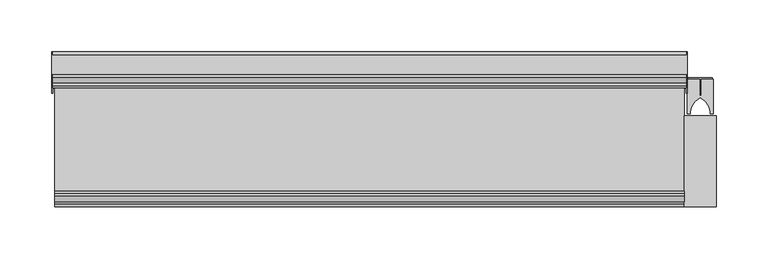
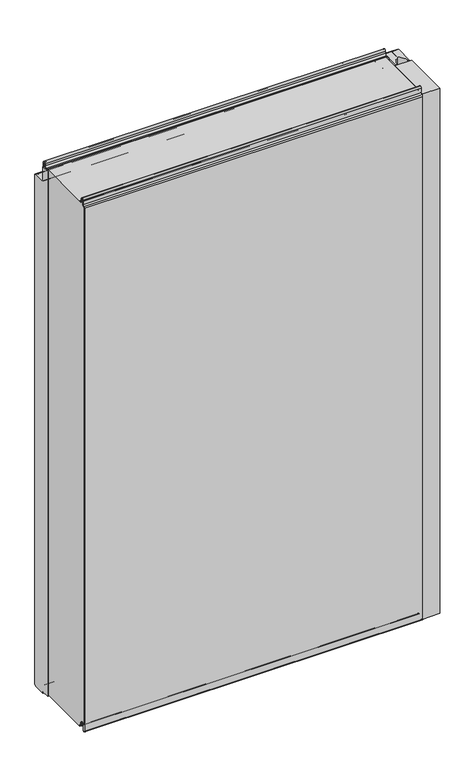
"""IFC4 building model written with IfcOpenShell, lengths in millimetres: plate geometry, Fronttop : Fronttop 150/1000."""

from ifc_helpers import new_model, si_unit, point, frame, frame_2d, origin, origin_with_axes, place, context, project, spatial, polyline, circle_curve, trimmed, segment, composite_curve, outline, extrude, source, transform, mapped, element, save
from ifc_brep_helpers import plane_surface, cylinder_surface, revolved_surface, advanced_brep


def plate_da5bb01e(model_context):
    return source(origin(), model_context, "Body", "SolidModel", [
        advanced_brep(
        [(-306.5, 124.0, 1008.0), (-306.5, 121.0, 1008.0), (-306.5, 121.0, 1004.0), (-306.5, 117.0, 1000.0), (-306.5, 115.0, 1000.0), (-306.5, 115.0, 1001.0), (-306.5, 117.0, 1001.0), (-306.5, 120.0, 1004.0), (-306.5, 120.0, 1008.0), (-306.5, 125.0, 1008.0), (-306.5, 125.0, 1000.0), (-306.5, 124.0, 1000.0), (306.5, 125.0, 1008.0), (306.5, 120.0, 1008.0), (306.5, 120.0, 1004.0), (306.5, 117.0, 1001.0), (306.5, 115.0, 1001.0), (306.5, 115.0, 1000.0), (306.5, 117.0, 1000.0), (306.5, 121.0, 1004.0), (306.5, 121.0, 1008.0), (306.5, 124.0, 1008.0), (306.5, 124.0, 1000.0), (306.5, 125.0, 1000.0), (-306.5, 117.0, 2.0), (306.5, 117.0, 2.0), (306.5, 115.0, 2.0), (-306.5, 115.0, 2.0), (-306.5, 119.0, 4.0), (306.5, 119.0, 4.0), (-306.5, 119.0, 8.0), (306.5, 119.0, 8.0), (-306.5, 126.0, 8.0), (306.5, 126.0, 8.0), (-306.5, 126.0, 0.0), (306.5, 126.0, 0.0), (-306.5, 129.0, -3.0), (306.5, 129.0, -3.0), (-306.5, 125.0, -3.0), (-307.5, 125.0, -3.0), (-307.5, 147.0, -3.0), (-306.5, 147.0, -3.0), (306.5, 147.0, -3.0), (307.5, 147.0, -3.0), (307.5, 125.0, -3.0), (306.5, 125.0, -3.0), (-306.5, 150.0, 0.0), (306.5, 150.0, 0.0), (-307.5, 150.0, 0.0), (-307.5, 150.0, 969.0), (-306.5, 150.0, 969.0), (306.5, 150.0, 969.0), (307.5, 150.0, 969.0), (307.5, 150.0, 0.0), (-306.5, 147.0, 972.0), (306.5, 147.0, 972.0), (-307.5, 147.0, 972.0), (-307.5, 128.0, 972.0), (-306.5, 128.0, 972.0), (306.5, 128.0, 972.0), (307.5, 128.0, 972.0), (307.5, 147.0, 972.0), (-306.5, 125.0, 975.0), (306.5, 125.0, 975.0), (-307.5, 125.0, 975.0), (-307.5, 125.0, 1000.0), (307.5, 125.0, 1000.0), (307.5, 125.0, 975.0), (-306.5, 124.0, 975.0), (306.5, 124.0, 975.0), (-306.5, 128.0, 971.0), (306.5, 128.0, 971.0), (-306.5, 147.0, 971.0), (306.5, 147.0, 971.0), (-306.5, 149.0, 969.0), (306.5, 149.0, 969.0), (-306.5, 149.0, 0.0), (306.5, 149.0, 0.0), (-306.5, 147.0, -2.0), (306.5, 147.0, -2.0), (-306.5, 129.0, -2.0), (306.5, 129.0, -2.0), (-306.5, 127.0, 0.0), (306.5, 127.0, 0.0), (-306.5, 127.0, 8.0), (306.5, 127.0, 8.0), (-306.5, 118.0, 8.0), (306.5, 118.0, 8.0), (-306.5, 118.0, 4.0), (306.5, 118.0, 4.0), (-306.5, 117.0, 3.0), (306.5, 117.0, 3.0), (-306.5, 115.0, 3.0), (306.5, 115.0, 3.0), (307.5, 110.0, 1000.0), (307.5, 110.0, 0.0), (307.5, 125.0, 0.0), (306.5, 125.0, 0.0), (306.5, 110.0, 0.0), (306.5, 110.0, 1000.0), (-307.5, 125.0, 0.0), (-307.5, 110.0, 0.0), (-307.5, 110.0, 1000.0), (-306.5, 110.0, 1000.0), (-306.5, 110.0, 0.0), (-306.5, 125.0, 0.0)],
        [
            (0, 1, circle_curve(frame((-306.5, 122.5, 1008.0), z_axis=(1.0, 0.0, 0.0), x_axis=(0.0, -1.0, 0.0)), 1.5)),
            (1, 2),
            (2, 3, circle_curve(frame((-306.5, 117.0, 1004.0), z_axis=(-1.0, 0.0, 0.0), x_axis=(0.0, -1.0, 0.0)), 4.0)),
            (3, 4),
            (4, 5),
            (5, 6),
            (6, 7, circle_curve(frame((-306.5, 117.0, 1004.0), z_axis=(1.0, 0.0, 0.0), x_axis=(0.0, -1.0, 0.0)), 3.0)),
            (7, 8),
            (8, 9, circle_curve(frame((-306.5, 122.5, 1008.0), z_axis=(-1.0, 0.0, 0.0), x_axis=(0.0, -1.0, 0.0)), 2.5)),
            (9, 10),
            (10, 11),
            (11, 0),
            (12, 13, circle_curve(frame((306.5, 122.5, 1008.0), z_axis=(1.0, 0.0, 0.0), x_axis=(0.0, -1.0, 0.0)), 2.5)),
            (13, 14),
            (14, 15, circle_curve(frame((306.5, 117.0, 1004.0), z_axis=(-1.0, 0.0, 0.0), x_axis=(0.0, -1.0, 0.0)), 3.0)),
            (15, 16),
            (16, 17),
            (17, 18),
            (18, 19, circle_curve(frame((306.5, 117.0, 1004.0), z_axis=(1.0, 0.0, 0.0), x_axis=(0.0, -1.0, 0.0)), 4.0)),
            (19, 20),
            (20, 21, circle_curve(frame((306.5, 122.5, 1008.0), z_axis=(-1.0, 0.0, 0.0), x_axis=(0.0, -1.0, 0.0)), 1.5)),
            (21, 22),
            (22, 23),
            (23, 12),
            (24, 25),
            (25, 26),
            (26, 27),
            (27, 24),
            (24, 28, circle_curve(frame((-306.5, 117.0, 4.0), z_axis=(1.0, 0.0, 0.0), x_axis=(0.0, -1.0, 0.0)), 2.0)),
            (28, 29),
            (29, 25, circle_curve(frame((306.5, 117.0, 4.0), z_axis=(-1.0, 0.0, 0.0), x_axis=(0.0, -1.0, 0.0)), 2.0)),
            (28, 30),
            (30, 31),
            (31, 29),
            (30, 32, circle_curve(frame((-306.5, 122.5, 8.0), z_axis=(-1.0, 0.0, 0.0), x_axis=(0.0, -1.0, 0.0)), 3.5)),
            (32, 33),
            (33, 31, circle_curve(frame((306.5, 122.5, 8.0), z_axis=(1.0, 0.0, 0.0), x_axis=(0.0, -1.0, 0.0)), 3.5)),
            (32, 34),
            (34, 35),
            (35, 33),
            (34, 36, circle_curve(frame((-306.5, 129.0, 0.0), z_axis=(1.0, 0.0, 0.0), x_axis=(0.0, -1.0, 0.0)), 3.0)),
            (36, 37),
            (37, 35, circle_curve(frame((306.5, 129.0, 0.0), z_axis=(-1.0, 0.0, 0.0), x_axis=(0.0, -1.0, 0.0)), 3.0)),
            (36, 38),
            (38, 39),
            (39, 40),
            (40, 41),
            (41, 42),
            (42, 43),
            (43, 44),
            (44, 45),
            (45, 37),
            (41, 46, circle_curve(frame((-306.5, 147.0, 0.0), z_axis=(1.0, 0.0, 0.0), x_axis=(0.0, -1.0, 0.0)), 3.0)),
            (46, 47),
            (47, 42, circle_curve(frame((306.5, 147.0, 0.0), z_axis=(-1.0, 0.0, 0.0), x_axis=(0.0, -1.0, 0.0)), 3.0)),
            (46, 48),
            (48, 49),
            (49, 50),
            (50, 51),
            (51, 52),
            (52, 53),
            (53, 47),
            (50, 54, circle_curve(frame((-306.5, 147.0, 969.0), z_axis=(1.0, 0.0, 0.0), x_axis=(0.0, -1.0, 0.0)), 3.0)),
            (54, 55),
            (55, 51, circle_curve(frame((306.5, 147.0, 969.0), z_axis=(-1.0, 0.0, 0.0), x_axis=(0.0, -1.0, 0.0)), 3.0)),
            (54, 56),
            (56, 57),
            (57, 58),
            (58, 59),
            (59, 60),
            (60, 61),
            (61, 55),
            (58, 62, circle_curve(frame((-306.5, 128.0, 975.0), z_axis=(-1.0, 0.0, 0.0), x_axis=(0.0, -1.0, 0.0)), 3.0)),
            (62, 63),
            (63, 59, circle_curve(frame((306.5, 128.0, 975.0), z_axis=(1.0, 0.0, 0.0), x_axis=(0.0, -1.0, 0.0)), 3.0)),
            (62, 64),
            (64, 65),
            (65, 10),
            (9, 12),
            (23, 66),
            (66, 67),
            (67, 63),
            (8, 13),
            (7, 14),
            (6, 15),
            (5, 16),
            (4, 17),
            (4, 3),
            (3, 18),
            (18, 17),
            (2, 19),
            (1, 20),
            (0, 21),
            (11, 68),
            (68, 69),
            (69, 22),
            (68, 70, circle_curve(frame((-306.5, 128.0, 975.0), z_axis=(1.0, 0.0, 0.0), x_axis=(0.0, -1.0, 0.0)), 4.0)),
            (70, 71),
            (71, 69, circle_curve(frame((306.5, 128.0, 975.0), z_axis=(-1.0, 0.0, 0.0), x_axis=(0.0, -1.0, 0.0)), 4.0)),
            (70, 72),
            (72, 73),
            (73, 71),
            (72, 74, circle_curve(frame((-306.5, 147.0, 969.0), z_axis=(-1.0, 0.0, 0.0), x_axis=(0.0, -1.0, 0.0)), 2.0)),
            (74, 75),
            (75, 73, circle_curve(frame((306.5, 147.0, 969.0), z_axis=(1.0, 0.0, 0.0), x_axis=(0.0, -1.0, 0.0)), 2.0)),
            (74, 76),
            (76, 77),
            (77, 75),
            (76, 78, circle_curve(frame((-306.5, 147.0, 0.0), z_axis=(-1.0, 0.0, 0.0), x_axis=(0.0, -1.0, 0.0)), 2.0)),
            (78, 79),
            (79, 77, circle_curve(frame((306.5, 147.0, 0.0), z_axis=(1.0, 0.0, 0.0), x_axis=(0.0, -1.0, 0.0)), 2.0)),
            (78, 80),
            (80, 81),
            (81, 79),
            (80, 82, circle_curve(frame((-306.5, 129.0, 0.0), z_axis=(-1.0, 0.0, 0.0), x_axis=(0.0, -1.0, 0.0)), 2.0)),
            (82, 83),
            (83, 81, circle_curve(frame((306.5, 129.0, 0.0), z_axis=(1.0, 0.0, 0.0), x_axis=(0.0, -1.0, 0.0)), 2.0)),
            (82, 84),
            (84, 85),
            (85, 83),
            (84, 86, circle_curve(frame((-306.5, 122.5, 8.0), z_axis=(1.0, 0.0, 0.0), x_axis=(0.0, -1.0, 0.0)), 4.5)),
            (86, 87),
            (87, 85, circle_curve(frame((306.5, 122.5, 8.0), z_axis=(-1.0, 0.0, 0.0), x_axis=(0.0, -1.0, 0.0)), 4.5)),
            (86, 88),
            (88, 89),
            (89, 87),
            (88, 90, circle_curve(frame((-306.5, 117.0, 4.0), z_axis=(-1.0, 0.0, 0.0), x_axis=(0.0, -1.0, 0.0)), 1.0)),
            (90, 91),
            (91, 89, circle_curve(frame((306.5, 117.0, 4.0), z_axis=(1.0, 0.0, 0.0), x_axis=(0.0, -1.0, 0.0)), 1.0)),
            (90, 92),
            (92, 93),
            (93, 91),
            (26, 93),
            (92, 27),
            (66, 94),
            (94, 95),
            (95, 96),
            (96, 44),
            (43, 53, circle_curve(frame((307.5, 147.0, 0.0), z_axis=(1.0, 0.0, 0.0), x_axis=(0.0, 1.0, 0.0)), 3.0)),
            (52, 61, circle_curve(frame((307.5, 147.0, 969.0), z_axis=(1.0, 0.0, 0.0), x_axis=(0.0, 1.0, 0.0)), 3.0)),
            (60, 67, circle_curve(frame((307.5, 128.0, 975.0), z_axis=(-1.0, 0.0, 0.0), x_axis=(0.0, 1.0, 0.0)), 3.0)),
            (45, 97),
            (97, 98),
            (98, 99),
            (99, 17),
            (18, 22),
            (99, 94),
            (98, 95),
            (97, 96),
            (64, 57, circle_curve(frame((-307.5, 128.0, 975.0), z_axis=(1.0, 0.0, 0.0), x_axis=(0.0, 1.0, 0.0)), 3.0)),
            (56, 49, circle_curve(frame((-307.5, 147.0, 969.0), z_axis=(-1.0, 0.0, 0.0), x_axis=(0.0, 1.0, 0.0)), 3.0)),
            (48, 40, circle_curve(frame((-307.5, 147.0, 0.0), z_axis=(-1.0, 0.0, 0.0), x_axis=(0.0, 1.0, 0.0)), 3.0)),
            (39, 100),
            (100, 101),
            (101, 102),
            (102, 65),
            (103, 104),
            (104, 105),
            (105, 38),
            (11, 3),
            (4, 103),
            (102, 103),
            (101, 104),
            (100, 105),
        ],
        [
            plane_surface(frame((-306.5, 0.0, 0.0), z_axis=(-1.0, 0.0, 0.0), x_axis=(0.0, 0.0, 1.0))),
            plane_surface(frame((306.5, 0.0, 0.0), z_axis=(1.0, 0.0, 0.0), x_axis=(0.0, 0.0, 1.0))),
            plane_surface(frame((-306.5, 117.0, 2.0), z_axis=(0.0, 0.0, -1.0), x_axis=(1.0, 0.0, 0.0))),
            cylinder_surface(frame((-306.5, 117.0, 4.0), z_axis=(-1.0, 0.0, 0.0), x_axis=(0.0, -1.0, 0.0)), 2.0),
            plane_surface(frame((-306.5, 119.0, 8.0), z_axis=(0.0, 1.0, 0.0), x_axis=(1.0, 0.0, 0.0))),
            revolved_surface(polyline([(306.5, 119.0, 8.0), (-306.5, 119.0, 8.0)]), (-306.5, 122.5, 8.0), (1.0, 0.0, 0.0)),
            plane_surface(frame((-306.5, 126.0, 0.0), z_axis=(0.0, -1.0, 0.0), x_axis=(1.0, 0.0, 0.0))),
            cylinder_surface(frame((-306.5, 129.0, 0.0), z_axis=(-1.0, 0.0, 0.0), x_axis=(0.0, -1.0, 0.0)), 3.0),
            plane_surface(frame((-306.5, 147.0, -3.0), z_axis=(0.0, 0.0, -1.0), x_axis=(1.0, 0.0, 0.0))),
            cylinder_surface(frame((-306.5, 147.0, 0.0), z_axis=(-1.0, 0.0, 0.0), x_axis=(0.0, -1.0, 0.0)), 3.0),
            plane_surface(frame((-306.5, 150.0, 969.0), z_axis=(0.0, 1.0, 0.0), x_axis=(1.0, 0.0, 0.0))),
            cylinder_surface(frame((-306.5, 147.0, 969.0), z_axis=(-1.0, 0.0, 0.0), x_axis=(0.0, -1.0, 0.0)), 3.0),
            plane_surface(frame((-306.5, 128.0, 972.0), z_axis=(0.0, 0.0, 1.0), x_axis=(1.0, 0.0, 0.0))),
            revolved_surface(polyline([(306.5, 125.0, 975.0), (-306.5, 125.0, 975.0)]), (-306.5, 128.0, 975.0), (1.0, 0.0, 0.0)),
            plane_surface(frame((-306.5, 125.0, 1008.0), z_axis=(0.0, 1.0, 0.0), x_axis=(1.0, 0.0, 0.0))),
            cylinder_surface(frame((-306.5, 122.5, 1008.0), z_axis=(-1.0, 0.0, 0.0), x_axis=(0.0, -1.0, 0.0)), 2.5),
            plane_surface(frame((-306.5, 120.0, 1004.0), z_axis=(0.0, -1.0, 0.0), x_axis=(1.0, 0.0, 0.0))),
            revolved_surface(polyline([(306.5, 114.0, 1004.0), (-306.5, 114.0, 1004.0)]), (-306.5, 117.0, 1004.0), (1.0, 0.0, 0.0)),
            plane_surface(frame((-306.5, 115.0, 1001.0), z_axis=(0.0, 0.0, 1.0), x_axis=(1.0, 0.0, 0.0))),
            plane_surface(frame((-306.5, 115.0, 1000.0), z_axis=(0.0, -1.0, 0.0), x_axis=(1.0, 0.0, 0.0))),
            plane_surface(frame((-306.5, 117.0, 1000.0), z_axis=(0.0, 0.0, -1.0), x_axis=(1.0, 0.0, 0.0))),
            cylinder_surface(frame((-306.5, 117.0, 1004.0), z_axis=(-1.0, 0.0, 0.0), x_axis=(0.0, -1.0, 0.0)), 4.0),
            plane_surface(frame((-306.5, 121.0, 1008.0), z_axis=(0.0, 1.0, 0.0), x_axis=(1.0, 0.0, 0.0))),
            revolved_surface(polyline([(306.5, 121.0, 1008.0), (-306.5, 121.0, 1008.0)]), (-306.5, 122.5, 1008.0), (1.0, 0.0, 0.0)),
            plane_surface(frame((-306.5, 124.0, 975.0), z_axis=(0.0, -1.0, 0.0), x_axis=(1.0, 0.0, 0.0))),
            cylinder_surface(frame((-306.5, 128.0, 975.0), z_axis=(-1.0, 0.0, 0.0), x_axis=(0.0, -1.0, 0.0)), 4.0),
            plane_surface(frame((-306.5, 147.0, 971.0), z_axis=(0.0, 0.0, -1.0), x_axis=(1.0, 0.0, 0.0))),
            revolved_surface(polyline([(306.5, 145.0, 969.0), (-306.5, 145.0, 969.0)]), (-306.5, 147.0, 969.0), (1.0, 0.0, 0.0)),
            plane_surface(frame((-306.5, 149.0, 0.0), z_axis=(0.0, -1.0, 0.0), x_axis=(1.0, 0.0, 0.0))),
            revolved_surface(polyline([(306.5, 145.0, 0.0), (-306.5, 145.0, 0.0)]), (-306.5, 147.0, 0.0), (1.0, 0.0, 0.0)),
            plane_surface(frame((-306.5, 129.0, -2.0), z_axis=(0.0, 0.0, 1.0), x_axis=(1.0, 0.0, 0.0))),
            revolved_surface(polyline([(306.5, 127.0, 0.0), (-306.5, 127.0, 0.0)]), (-306.5, 129.0, 0.0), (1.0, 0.0, 0.0)),
            plane_surface(frame((-306.5, 127.0, 8.0), z_axis=(0.0, 1.0, 0.0), x_axis=(1.0, 0.0, 0.0))),
            cylinder_surface(frame((-306.5, 122.5, 8.0), z_axis=(-1.0, 0.0, 0.0), x_axis=(0.0, -1.0, 0.0)), 4.5),
            plane_surface(frame((-306.5, 118.0, 4.0), z_axis=(0.0, -1.0, 0.0), x_axis=(1.0, 0.0, 0.0))),
            revolved_surface(polyline([(306.5, 116.0, 4.0), (-306.5, 116.0, 4.0)]), (-306.5, 117.0, 4.0), (1.0, 0.0, 0.0)),
            plane_surface(frame((-306.5, 115.0, 3.0), z_axis=(0.0, 0.0, 1.0), x_axis=(1.0, 0.0, 0.0))),
            plane_surface(frame((-306.5, 115.0, 2.0), z_axis=(0.0, -1.0, 0.0), x_axis=(1.0, 0.0, 0.0))),
            plane_surface(frame((307.5, 125.0, 1000.0), z_axis=(1.0, 0.0, 0.0), x_axis=(0.0, -1.0, 0.0))),
            plane_surface(frame((306.5, 125.0, 1000.0), z_axis=(-1.0, 0.0, 0.0), x_axis=(0.0, 1.0, 0.0))),
            plane_surface(frame((307.5, 125.0, 1000.0), z_axis=(0.0, 0.0, 1.0), x_axis=(-1.0, 0.0, 0.0))),
            plane_surface(frame((307.5, 110.0, 1000.0), z_axis=(0.0, -1.0, 0.0), x_axis=(-1.0, 0.0, 0.0))),
            plane_surface(frame((307.5, 110.0, 0.0), z_axis=(0.0, 0.0, -1.0), x_axis=(-1.0, 0.0, 0.0))),
            cylinder_surface(frame((306.5, 147.0, 0.0), z_axis=(1.0, 0.0, 0.0), x_axis=(0.0, 1.0, 0.0)), 3.0),
            cylinder_surface(frame((306.5, 147.0, 969.0), z_axis=(1.0, 0.0, 0.0), x_axis=(0.0, 1.0, 0.0)), 3.0),
            revolved_surface(polyline([(306.5, 131.0, 975.0), (307.5, 131.0, 975.0)]), (306.5, 128.0, 975.0), (-1.0, 0.0, 0.0)),
            plane_surface(frame((-307.5, 125.0, 1000.0), z_axis=(-1.0, 0.0, 0.0), x_axis=(0.0, 1.0, 0.0))),
            plane_surface(frame((-306.5, 125.0, 1000.0), z_axis=(1.0, 0.0, 0.0), x_axis=(0.0, -1.0, 0.0))),
            plane_surface(frame((-306.5, 125.0, 1000.0), z_axis=(0.0, 0.0, 1.0), x_axis=(-1.0, 0.0, 0.0))),
            plane_surface(frame((-306.5, 110.0, 1000.0), z_axis=(0.0, -1.0, 0.0), x_axis=(-1.0, 0.0, 0.0))),
            plane_surface(frame((-306.5, 110.0, 0.0), z_axis=(0.0, 0.0, -1.0), x_axis=(-1.0, 0.0, 0.0))),
            cylinder_surface(frame((-307.5, 147.0, 0.0), z_axis=(1.0, 0.0, 0.0), x_axis=(0.0, 1.0, 0.0)), 3.0),
            cylinder_surface(frame((-307.5, 147.0, 969.0), z_axis=(1.0, 0.0, 0.0), x_axis=(0.0, 1.0, 0.0)), 3.0),
            revolved_surface(polyline([(-307.5, 131.0, 975.0), (-306.5, 131.0, 975.0)]), (-307.5, 128.0, 975.0), (-1.0, 0.0, 0.0)),
            plane_surface(frame((307.5, 125.0, 0.0), z_axis=(0.0, -1.0, 0.0), x_axis=(-1.0, 0.0, 0.0))),
            plane_surface(frame((-306.5, 125.0, 0.0), z_axis=(0.0, -1.0, 0.0), x_axis=(-1.0, 0.0, 0.0))),
        ],
        [
            (0, [[1, 2, 3, 4, 5, 6, 7, 8, 9, 10, 11, 12]]),
            (1, [[13, 14, 15, 16, 17, 18, 19, 20, 21, 22, 23, 24]]),
            (2, [[25, 26, 27, 28]]),
            (3, [[-25, 29, 30, 31]]),
            (4, [[-30, 32, 33, 34]]),
            (5, [[-33, 35, 36, 37]]),
            (6, [[-36, 38, 39, 40]]),
            (7, [[-39, 41, 42, 43]]),
            (8, [[-42, 44, 45, 46, 47, 48, 49, 50, 51, 52]]),
            (9, [[-48, 53, 54, 55]]),
            (10, [[-54, 56, 57, 58, 59, 60, 61, 62]]),
            (11, [[-59, 63, 64, 65]]),
            (12, [[-64, 66, 67, 68, 69, 70, 71, 72]]),
            (13, [[-69, 73, 74, 75]]),
            (14, [[-74, 76, 77, 78, -10, 79, -24, 80, 81, 82]]),
            (15, [[-9, 83, -13, -79]]),
            (16, [[-8, 84, -14, -83]]),
            (17, [[-7, 85, -15, -84]]),
            (18, [[-6, 86, -16, -85]]),
            (19, [[-5, 87, -17, -86]]),
            (20, [[-87, 88, 89, 90]]),
            (21, [[-3, 91, -19, -89]]),
            (22, [[-2, 92, -20, -91]]),
            (23, [[-1, 93, -21, -92]]),
            (24, [[-93, -12, 94, 95, 96, -22]]),
            (25, [[-95, 97, 98, 99]]),
            (26, [[-98, 100, 101, 102]]),
            (27, [[-101, 103, 104, 105]]),
            (28, [[-104, 106, 107, 108]]),
            (29, [[-107, 109, 110, 111]]),
            (30, [[-110, 112, 113, 114]]),
            (31, [[-113, 115, 116, 117]]),
            (32, [[-116, 118, 119, 120]]),
            (33, [[-119, 121, 122, 123]]),
            (34, [[-122, 124, 125, 126]]),
            (35, [[-125, 127, 128, 129]]),
            (36, [[-128, 130, 131, 132]]),
            (37, [[-27, 133, -131, 134]]),
            (38, [[135, 136, 137, 138, -50, 139, -61, 140, -71, 141, -81]]),
            (39, [[142, 143, 144, 145, -90, 146, -96, -99, -102, -105, -108, -111, -114, -117, -120, -123, -126, -129, -132, -133, -26, -31, -34, -37, -40, -43, -52]]),
            (40, [[-135, -80, -23, -146, -18, -145, 147]]),
            (41, [[-136, -147, -144, 148]]),
            (42, [[-137, -148, -143, 149]]),
            (43, [[-139, -49, -55, -62]]),
            (44, [[-140, -60, -65, -72]]),
            (45, [[-141, -70, -75, -82]]),
            (46, [[-77, 150, -67, 151, -57, 152, -46, 153, 154, 155, 156]]),
            (47, [[157, 158, 159, -44, -41, -38, -35, -32, -29, -28, -134, -130, -127, -124, -121, -118, -115, -112, -109, -106, -103, -100, -97, -94, 160, -88, 161]]),
            (48, [[-156, 162, -161, -4, -160, -11, -78]]),
            (49, [[-155, 163, -157, -162]]),
            (50, [[-154, 164, -158, -163]]),
            (51, [[-152, -56, -53, -47]]),
            (52, [[-151, -66, -63, -58]]),
            (53, [[-150, -76, -73, -68]]),
            (54, [[-138, -149, -142, -51]]),
            (55, [[-153, -45, -159, -164]]),
        ],
    ),
        extrude(outline(composite_curve([segment(polyline([(307.4998455, 123.5), (319.25, 123.5), (319.25, 107.5), (320.75, 107.5), (320.75, 123.5), (332.5001545, 123.5), (332.5001545, 90.0), (329.75, 90.0), (329.75, 92.5)]), True, "CONTINUOUS"), segment(trimmed(circle_curve(frame_2d((311.9661979, 89.3183984)), 18.0661619), [point((329.75, 92.5))], [point((320.0, 105.5))], True, "CARTESIAN"), True, "CONTINUOUS"), segment(trimmed(circle_curve(frame_2d((328.0338021, 89.3183984)), 18.0661619), [point((320.0, 105.5))], [point((310.25, 92.5))], True, "CARTESIAN"), True, "CONTINUOUS"), segment(polyline([(310.25, 92.5), (310.25, 90.0), (307.4998455, 90.0), (307.4998455, 123.5)]), True, "CONTINUOUS")], self_intersect=False)), origin_with_axes(), (0.0, 0.0, 1.0), 1000.0),
        extrude(outline(polyline([(335.5, 0.0), (304.5, 0.0), (304.5, 88.0), (335.5, 88.0), (335.5, 0.0)])), origin_with_axes(), (0.0, 0.0, 1.0), 1000.0),
        extrude(outline(polyline([(308.4948846, 125.0), (331.5051154, 125.0), (331.5051154, 123.5), (320.6502496, 123.5), (320.6502496, 109.0759655), (319.35, 109.0759655), (319.35, 123.5), (308.4948846, 123.5), (308.4948846, 125.0)])), origin_with_axes(), (0.0, 0.0, 1.0), 1000.0),
        advanced_brep(
        [(-304.5, 13.0, 1001.0), (-304.5, 15.0, 1001.0), (-304.5, 15.0, 1000.0), (-304.5, 13.0, 1000.0), (-304.5, 9.0, 1004.0), (-304.5, 9.0, 1008.0), (-304.5, 6.0, 1008.0), (-304.5, 6.0, 999.5), (-304.5, 2.1134897, 996.0214069), (-304.5, 1.0, 995.0), (-304.5, 1.0, -0.5), (-304.5, 3.0, -0.5), (-304.5, 3.0, 8.0), (-304.5, 12.0, 8.0), (-304.5, 12.0, 4.0), (-304.5, 13.0, 3.0), (-304.5, 15.0, 3.0), (-304.5, 15.0, 2.0), (-304.5, 13.0, 2.0), (-304.5, 11.0, 4.0), (-304.5, 11.0, 8.0), (-304.5, 4.0, 8.0), (-304.5, 4.0, -0.5), (-304.5, 0.0, -0.5), (-304.5, 0.0, 995.0), (-304.5, 2.220863, 996.9877675), (-304.5, 5.0, 999.5), (-304.5, 5.0, 1008.0), (-304.5, 10.0, 1008.0), (-304.5, 10.0, 1004.0), (304.5, 13.0, 1001.0), (304.5, 10.0, 1004.0), (304.5, 10.0, 1008.0), (304.5, 5.0, 1008.0), (304.5, 5.0, 999.5), (304.5, 2.2239212, 997.0152907), (304.5, 0.0, 995.0), (304.5, 0.0, -0.5), (304.5, 4.0, -0.5), (304.5, 4.0, 8.0), (304.5, 11.0, 8.0), (304.5, 11.0, 4.0), (304.5, 13.0, 2.0), (304.5, 15.0, 2.0), (304.5, 15.0, 3.0), (304.5, 13.0, 3.0), (304.5, 12.0, 4.0), (304.5, 12.0, 8.0), (304.5, 3.0, 8.0), (304.5, 3.0, -0.5), (304.5, 1.0, -0.5), (304.5, 1.0, 995.0), (304.5, 2.1104315, 995.9938837), (304.5, 6.0, 999.5), (304.5, 6.0, 1008.0), (304.5, 9.0, 1008.0), (304.5, 9.0, 1004.0), (304.5, 13.0, 1000.0), (304.5, 15.0, 1000.0), (304.5, 15.0, 1001.0)],
        [
            (0, 1),
            (1, 2),
            (2, 3),
            (3, 4, circle_curve(frame((-304.5, 13.0, 1004.0), z_axis=(-1.0, 0.0, 0.0), x_axis=(0.0, -1.0, 0.0)), 4.0)),
            (4, 5),
            (5, 6, circle_curve(frame((-304.5, 7.5, 1008.0), z_axis=(1.0, 0.0, 0.0), x_axis=(0.0, -1.0, 0.0)), 1.5)),
            (6, 7),
            (7, 8, circle_curve(frame((-304.5, 2.5, 999.5), z_axis=(-1.0, 0.0, 0.0), x_axis=(0.0, -1.0, 0.0)), 3.5)),
            (8, 9, circle_curve(frame((-304.5, 2.0, 995.0), z_axis=(1.0, 0.0, 0.0), x_axis=(0.0, -1.0, 0.0)), 1.0)),
            (9, 10),
            (10, 11, circle_curve(frame((-304.5, 2.0, -0.5), z_axis=(1.0, 0.0, 0.0), x_axis=(0.0, -1.0, 0.0)), 1.0)),
            (11, 12),
            (12, 13, circle_curve(frame((-304.5, 7.5, 8.0), z_axis=(-1.0, 0.0, 0.0), x_axis=(0.0, -1.0, 0.0)), 4.5)),
            (13, 14),
            (14, 15, circle_curve(frame((-304.5, 13.0, 4.0), z_axis=(1.0, 0.0, 0.0), x_axis=(0.0, -1.0, 0.0)), 1.0)),
            (15, 16),
            (16, 17),
            (17, 18),
            (18, 19, circle_curve(frame((-304.5, 13.0, 4.0), z_axis=(-1.0, 0.0, 0.0), x_axis=(0.0, -1.0, 0.0)), 2.0)),
            (19, 20),
            (20, 21, circle_curve(frame((-304.5, 7.5, 8.0), z_axis=(1.0, 0.0, 0.0), x_axis=(0.0, -1.0, 0.0)), 3.5)),
            (21, 22),
            (22, 23, circle_curve(frame((-304.5, 2.0, -0.5), z_axis=(-1.0, 0.0, 0.0), x_axis=(0.0, -1.0, 0.0)), 2.0)),
            (23, 24),
            (24, 25, circle_curve(frame((-304.5, 2.0, 995.0), z_axis=(-1.0, 0.0, 0.0), x_axis=(0.0, -1.0, 0.0)), 2.0)),
            (25, 26, circle_curve(frame((-304.5, 2.5, 999.5), z_axis=(1.0, 0.0, 0.0), x_axis=(0.0, -1.0, 0.0)), 2.5)),
            (26, 27),
            (27, 28, circle_curve(frame((-304.5, 7.5, 1008.0), z_axis=(-1.0, 0.0, 0.0), x_axis=(0.0, -1.0, 0.0)), 2.5)),
            (28, 29),
            (29, 0, circle_curve(frame((-304.5, 13.0, 1004.0), z_axis=(1.0, 0.0, 0.0), x_axis=(0.0, -1.0, 0.0)), 3.0)),
            (30, 31, circle_curve(frame((304.5, 13.0, 1004.0), z_axis=(-1.0, 0.0, 0.0), x_axis=(0.0, -1.0, 0.0)), 3.0)),
            (31, 32),
            (32, 33, circle_curve(frame((304.5, 7.5, 1008.0), z_axis=(1.0, 0.0, 0.0), x_axis=(0.0, -1.0, 0.0)), 2.5)),
            (33, 34),
            (34, 35, circle_curve(frame((304.5, 2.5, 999.5), z_axis=(-1.0, 0.0, 0.0), x_axis=(0.0, -1.0, 0.0)), 2.5)),
            (35, 36, circle_curve(frame((304.5, 2.0, 995.0), z_axis=(1.0, 0.0, 0.0), x_axis=(0.0, -1.0, 0.0)), 2.0)),
            (36, 37),
            (37, 38, circle_curve(frame((304.5, 2.0, -0.5), z_axis=(1.0, 0.0, 0.0), x_axis=(0.0, -1.0, 0.0)), 2.0)),
            (38, 39),
            (39, 40, circle_curve(frame((304.5, 7.5, 8.0), z_axis=(-1.0, 0.0, 0.0), x_axis=(0.0, -1.0, 0.0)), 3.5)),
            (40, 41),
            (41, 42, circle_curve(frame((304.5, 13.0, 4.0), z_axis=(1.0, 0.0, 0.0), x_axis=(0.0, -1.0, 0.0)), 2.0)),
            (42, 43),
            (43, 44),
            (44, 45),
            (45, 46, circle_curve(frame((304.5, 13.0, 4.0), z_axis=(-1.0, 0.0, 0.0), x_axis=(0.0, -1.0, 0.0)), 1.0)),
            (46, 47),
            (47, 48, circle_curve(frame((304.5, 7.5, 8.0), z_axis=(1.0, 0.0, 0.0), x_axis=(0.0, -1.0, 0.0)), 4.5)),
            (48, 49),
            (49, 50, circle_curve(frame((304.5, 2.0, -0.5), z_axis=(-1.0, 0.0, 0.0), x_axis=(0.0, -1.0, 0.0)), 1.0)),
            (50, 51),
            (51, 52, circle_curve(frame((304.5, 2.0, 995.0), z_axis=(-1.0, 0.0, 0.0), x_axis=(0.0, -1.0, 0.0)), 1.0)),
            (52, 53, circle_curve(frame((304.5, 2.5, 999.5), z_axis=(1.0, 0.0, 0.0), x_axis=(0.0, -1.0, 0.0)), 3.5)),
            (53, 54),
            (54, 55, circle_curve(frame((304.5, 7.5, 1008.0), z_axis=(-1.0, 0.0, 0.0), x_axis=(0.0, -1.0, 0.0)), 1.5)),
            (55, 56),
            (56, 57, circle_curve(frame((304.5, 13.0, 1004.0), z_axis=(1.0, 0.0, 0.0), x_axis=(0.0, -1.0, 0.0)), 4.0)),
            (57, 58),
            (58, 59),
            (59, 30),
            (0, 30),
            (59, 1),
            (58, 2),
            (57, 3),
            (56, 4),
            (55, 5),
            (54, 6),
            (53, 7),
            (52, 8),
            (51, 9),
            (50, 10),
            (49, 11),
            (48, 12),
            (47, 13),
            (46, 14),
            (45, 15),
            (44, 16),
            (43, 17),
            (42, 18),
            (41, 19),
            (40, 20),
            (39, 21),
            (38, 22),
            (37, 23),
            (36, 24),
            (35, 25),
            (34, 26),
            (33, 27),
            (32, 28),
            (31, 29),
        ],
        [
            plane_surface(frame((-304.5, 0.0, 0.0), z_axis=(-1.0, 0.0, 0.0), x_axis=(0.0, 0.0, 1.0))),
            plane_surface(frame((304.5, 0.0, 0.0), z_axis=(1.0, 0.0, 0.0), x_axis=(0.0, 0.0, 1.0))),
            plane_surface(frame((-304.5, 13.0, 1001.0), z_axis=(0.0, 0.0, 1.0), x_axis=(1.0, 0.0, 0.0))),
            plane_surface(frame((-304.5, 15.0, 1001.0), z_axis=(0.0, 1.0, 0.0), x_axis=(1.0, 0.0, 0.0))),
            plane_surface(frame((-304.5, 15.0, 1000.0), z_axis=(0.0, 0.0, -1.0), x_axis=(1.0, 0.0, 0.0))),
            cylinder_surface(frame((-304.5, 13.0, 1004.0), z_axis=(-1.0, 0.0, 0.0), x_axis=(0.0, -1.0, 0.0)), 4.0),
            plane_surface(frame((-304.5, 9.0, 1004.0), z_axis=(0.0, -1.0, 0.0), x_axis=(1.0, 0.0, 0.0))),
            revolved_surface(polyline([(304.5, 6.0, 1008.0), (-304.5, 6.0, 1008.0)]), (-304.5, 7.5, 1008.0), (1.0, 0.0, 0.0)),
            plane_surface(frame((-304.5, 6.0, 1008.0), z_axis=(0.0, 1.0, 0.0), x_axis=(1.0, 0.0, 0.0))),
            cylinder_surface(frame((-304.5, 2.5, 999.5), z_axis=(-1.0, 0.0, 0.0), x_axis=(0.0, -1.0, 0.0)), 3.5),
            revolved_surface(polyline([(304.5, 1.0, 995.0), (-304.5, 1.0, 995.0)]), (-304.5, 2.0, 995.0), (1.0, 0.0, 0.0)),
            plane_surface(frame((-304.5, 1.0, 995.0), z_axis=(0.0, 1.0, 0.0), x_axis=(1.0, 0.0, 0.0))),
            revolved_surface(polyline([(304.5, 1.0, -0.5), (-304.5, 1.0, -0.5)]), (-304.5, 2.0, -0.5), (1.0, 0.0, 0.0)),
            plane_surface(frame((-304.5, 3.0, -0.5), z_axis=(0.0, -1.0, 0.0), x_axis=(1.0, 0.0, 0.0))),
            cylinder_surface(frame((-304.5, 7.5, 8.0), z_axis=(-1.0, 0.0, 0.0), x_axis=(0.0, -1.0, 0.0)), 4.5),
            plane_surface(frame((-304.5, 12.0, 8.0), z_axis=(0.0, 1.0, 0.0), x_axis=(1.0, 0.0, 0.0))),
            revolved_surface(polyline([(304.5, 12.0, 4.0), (-304.5, 12.0, 4.0)]), (-304.5, 13.0, 4.0), (1.0, 0.0, 0.0)),
            plane_surface(frame((-304.5, 13.0, 3.0), z_axis=(0.0, 0.0, 1.0), x_axis=(1.0, 0.0, 0.0))),
            plane_surface(frame((-304.5, 15.0, 3.0), z_axis=(0.0, 1.0, 0.0), x_axis=(1.0, 0.0, 0.0))),
            plane_surface(frame((-304.5, 15.0, 2.0), z_axis=(0.0, 0.0, -1.0), x_axis=(1.0, 0.0, 0.0))),
            cylinder_surface(frame((-304.5, 13.0, 4.0), z_axis=(-1.0, 0.0, 0.0), x_axis=(0.0, -1.0, 0.0)), 2.0),
            plane_surface(frame((-304.5, 11.0, 4.0), z_axis=(0.0, -1.0, 0.0), x_axis=(1.0, 0.0, 0.0))),
            revolved_surface(polyline([(304.5, 4.0, 8.0), (-304.5, 4.0, 8.0)]), (-304.5, 7.5, 8.0), (1.0, 0.0, 0.0)),
            plane_surface(frame((-304.5, 4.0, 8.0), z_axis=(0.0, 1.0, 0.0), x_axis=(1.0, 0.0, 0.0))),
            cylinder_surface(frame((-304.5, 2.0, -0.5), z_axis=(-1.0, 0.0, 0.0), x_axis=(0.0, -1.0, 0.0)), 2.0),
            plane_surface(frame((-304.5, 0.0, -0.5), z_axis=(0.0, -1.0, 0.0), x_axis=(1.0, 0.0, 0.0))),
            cylinder_surface(frame((-304.5, 2.0, 995.0), z_axis=(-1.0, 0.0, 0.0), x_axis=(0.0, -1.0, 0.0)), 2.0),
            revolved_surface(polyline([(304.5, 0.0, 999.5), (-304.5, 0.0, 999.5)]), (-304.5, 2.5, 999.5), (1.0, 0.0, 0.0)),
            plane_surface(frame((-304.5, 5.0, 999.5), z_axis=(0.0, -1.0, 0.0), x_axis=(1.0, 0.0, 0.0))),
            cylinder_surface(frame((-304.5, 7.5, 1008.0), z_axis=(-1.0, 0.0, 0.0), x_axis=(0.0, -1.0, 0.0)), 2.5),
            plane_surface(frame((-304.5, 10.0, 1008.0), z_axis=(0.0, 1.0, 0.0), x_axis=(1.0, 0.0, 0.0))),
            revolved_surface(polyline([(304.5, 10.0, 1004.0), (-304.5, 10.0, 1004.0)]), (-304.5, 13.0, 1004.0), (1.0, 0.0, 0.0)),
        ],
        [
            (0, [[1, 2, 3, 4, 5, 6, 7, 8, 9, 10, 11, 12, 13, 14, 15, 16, 17, 18, 19, 20, 21, 22, 23, 24, 25, 26, 27, 28, 29, 30]]),
            (1, [[31, 32, 33, 34, 35, 36, 37, 38, 39, 40, 41, 42, 43, 44, 45, 46, 47, 48, 49, 50, 51, 52, 53, 54, 55, 56, 57, 58, 59, 60]]),
            (2, [[-1, 61, -60, 62]]),
            (3, [[-2, -62, -59, 63]]),
            (4, [[-3, -63, -58, 64]]),
            (5, [[-4, -64, -57, 65]]),
            (6, [[-5, -65, -56, 66]]),
            (7, [[-6, -66, -55, 67]]),
            (8, [[-7, -67, -54, 68]]),
            (9, [[-8, -68, -53, 69]]),
            (10, [[-9, -69, -52, 70]]),
            (11, [[-10, -70, -51, 71]]),
            (12, [[-11, -71, -50, 72]]),
            (13, [[-12, -72, -49, 73]]),
            (14, [[-13, -73, -48, 74]]),
            (15, [[-14, -74, -47, 75]]),
            (16, [[-15, -75, -46, 76]]),
            (17, [[-16, -76, -45, 77]]),
            (18, [[-17, -77, -44, 78]]),
            (19, [[-18, -78, -43, 79]]),
            (20, [[-19, -79, -42, 80]]),
            (21, [[-20, -80, -41, 81]]),
            (22, [[-21, -81, -40, 82]]),
            (23, [[-22, -82, -39, 83]]),
            (24, [[-23, -83, -38, 84]]),
            (25, [[-24, -84, -37, 85]]),
            (26, [[-25, -85, -36, 86]]),
            (27, [[-26, -86, -35, 87]]),
            (28, [[-27, -87, -34, 88]]),
            (29, [[-28, -88, -33, 89]]),
            (30, [[-29, -89, -32, 90]]),
            (31, [[-30, -90, -31, -61]]),
        ],
    ),
        extrude(outline(composite_curve([segment(polyline([(15.0, 3.0), (13.0, 3.0)]), True, "CONTINUOUS"), segment(trimmed(circle_curve(frame_2d((13.0, 4.0)), 1.0), [point((13.0, 3.0))], [point((12.0, 4.0))], False, "CARTESIAN"), True, "CONTINUOUS"), segment(polyline([(12.0, 4.0), (12.0, 8.0)]), True, "CONTINUOUS"), segment(trimmed(circle_curve(frame_2d((7.5, 8.0)), 4.5), [point((12.0, 8.0))], [point((3.0, 8.0))], True, "CARTESIAN"), True, "CONTINUOUS"), segment(polyline([(3.0, 8.0), (3.0, -0.5)]), True, "CONTINUOUS"), segment(trimmed(circle_curve(frame_2d((2.0, -0.5)), 1.0), [point((3.0, -0.5))], [point((1.0, -0.5))], False, "CARTESIAN"), True, "CONTINUOUS"), segment(polyline([(1.0, -0.5), (1.0, 995.0278643)]), True, "CONTINUOUS"), segment(trimmed(circle_curve(frame_2d((2.0, 995.0278643)), 1.0), [point((1.0, 995.0278643))], [point((2.1111111, 996.0216723))], False, "CARTESIAN"), True, "CONTINUOUS"), segment(trimmed(circle_curve(frame_2d((2.5, 999.5)), 3.5), [point((2.1111111, 996.0216723))], [point((6.0, 999.5))], True, "CARTESIAN"), True, "CONTINUOUS"), segment(polyline([(6.0, 999.5), (6.0, 1008.0)]), True, "CONTINUOUS"), segment(trimmed(circle_curve(frame_2d((7.5, 1008.0)), 1.5), [point((6.0, 1008.0))], [point((9.0, 1008.0))], False, "CARTESIAN"), True, "CONTINUOUS"), segment(polyline([(9.0, 1008.0), (9.0, 1004.0)]), True, "CONTINUOUS"), segment(trimmed(circle_curve(frame_2d((13.0, 1004.0)), 4.0), [point((9.0, 1004.0))], [point((13.0, 1000.0))], True, "CARTESIAN"), True, "CONTINUOUS"), segment(polyline([(13.0, 1000.0), (117.0, 1000.0)]), True, "CONTINUOUS"), segment(trimmed(circle_curve(frame_2d((117.0, 1004.0)), 4.0), [point((117.0, 1000.0))], [point((121.0, 1004.0))], True, "CARTESIAN"), True, "CONTINUOUS"), segment(polyline([(121.0, 1004.0), (121.0, 1008.0)]), True, "CONTINUOUS"), segment(trimmed(circle_curve(frame_2d((122.5, 1008.0)), 1.5), [point((121.0, 1008.0))], [point((124.0, 1008.0))], False, "CARTESIAN"), True, "CONTINUOUS"), segment(polyline([(124.0, 1008.0), (124.0, 975.0)]), True, "CONTINUOUS"), segment(trimmed(circle_curve(frame_2d((128.0, 975.0)), 4.0), [point((124.0, 975.0))], [point((128.0, 971.0))], True, "CARTESIAN"), True, "CONTINUOUS"), segment(polyline([(128.0, 971.0), (147.0, 971.0)]), True, "CONTINUOUS"), segment(trimmed(circle_curve(frame_2d((147.0, 969.0)), 2.0), [point((147.0, 971.0))], [point((149.0, 969.0))], False, "CARTESIAN"), True, "CONTINUOUS"), segment(polyline([(149.0, 969.0), (149.0, 0.0)]), True, "CONTINUOUS"), segment(trimmed(circle_curve(frame_2d((147.0, 0.0)), 2.0), [point((149.0, 0.0))], [point((147.0, -2.0))], False, "CARTESIAN"), True, "CONTINUOUS"), segment(polyline([(147.0, -2.0), (129.0, -2.0)]), True, "CONTINUOUS"), segment(trimmed(circle_curve(frame_2d((129.0, 0.0)), 2.0), [point((129.0, -2.0))], [point((127.0, 0.0))], False, "CARTESIAN"), True, "CONTINUOUS"), segment(polyline([(127.0, 0.0), (127.0, 8.0)]), True, "CONTINUOUS"), segment(trimmed(circle_curve(frame_2d((122.5, 8.0)), 4.5), [point((127.0, 8.0))], [point((118.0, 8.0))], True, "CARTESIAN"), True, "CONTINUOUS"), segment(polyline([(118.0, 8.0), (118.0, 4.0)]), True, "CONTINUOUS"), segment(trimmed(circle_curve(frame_2d((117.0, 4.0)), 1.0), [point((118.0, 4.0))], [point((117.0, 3.0))], False, "CARTESIAN"), True, "CONTINUOUS"), segment(polyline([(117.0, 3.0), (115.0, 3.0), (115.0, 0.0), (15.0, 0.0), (15.0, 3.0)]), True, "CONTINUOUS")], self_intersect=False)), frame((-304.5, 0.0, 0.0), z_axis=(1.0, 0.0, 0.0), x_axis=(0.0, 1.0, 0.0)), (0.0, 0.0, 1.0), 609.0),
    ])


if __name__ == "__main__":
    model = new_model("IFC4")
    model_context = context("Model", 3, world=origin())
    ifc_project = project(units=[si_unit("LENGTHUNIT", "METRE", prefix="MILLI")], contexts=[model_context])
    site = spatial("IfcSite", under=ifc_project)
    building = spatial("IfcBuilding", under=site)
    placement = place(None, origin())
    plate_shape = plate_da5bb01e(model_context)
    element("IfcPlate", 1, ObjectType="Fronttop : Fronttop 150/1000", at=placement, inside=building, context=model_context, shape_type="MappedRepresentation", body=[
        mapped(plate_shape, transform((0.0, 0.0, 0.0), x_axis=(1.0, 0.0, 0.0), y_axis=(0.0, 1.0, 0.0), z_axis=(0.0, 0.0, 1.0))),
    ])
    save(model, "model.ifc")
